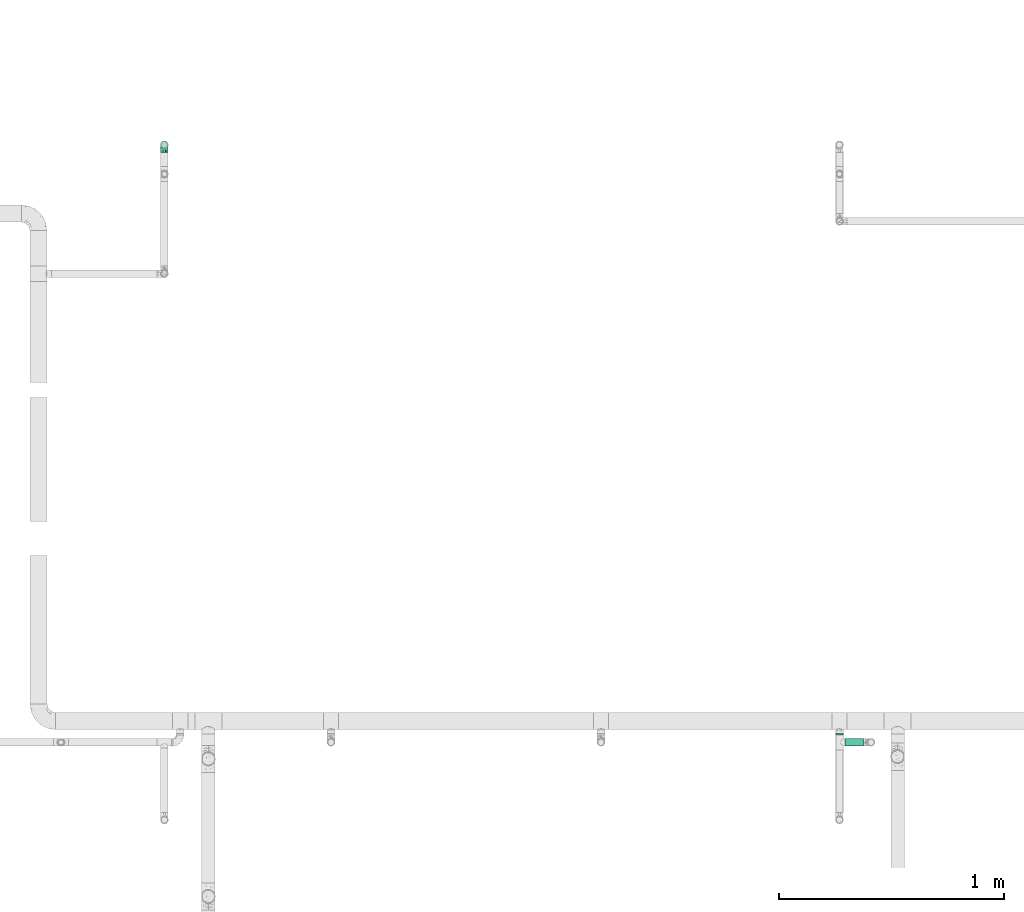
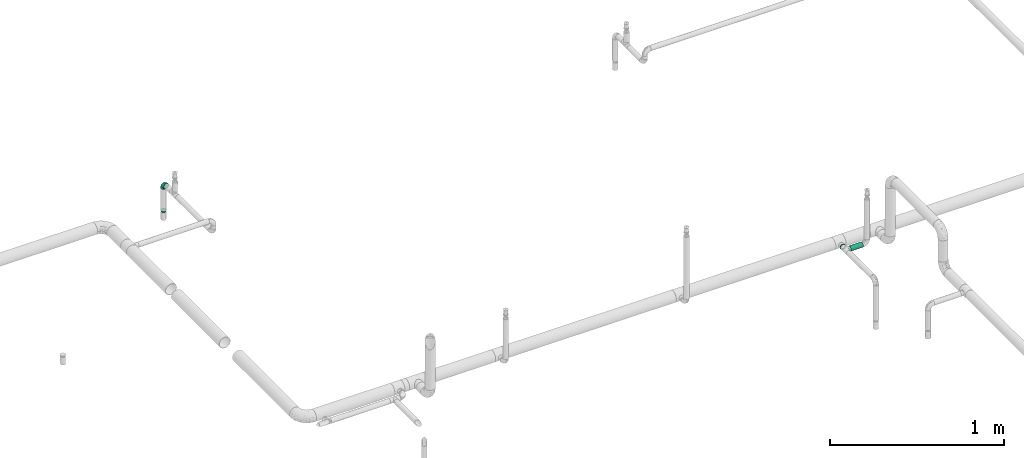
# One storey, part 114 of 157: 2 flow fittings, 2 flow segments.
"""IFC2X3 building model written with IfcOpenShell, lengths in millimetres."""

import ifcopenshell
import ifcopenshell.guid

model = None  # the IFC model being written
_history = None  # IfcOwnerHistory: only IFC2X3 demands one
_inside = {}  # id of a spatial element -> (the spatial element, [elements in it])
_under = {}  # id of a project, library or spatial element -> (it, [spatial elements below it])
_declared = {}  # id of a project -> (the project, [libraries it declares])
_typed = {}  # id of a type object -> (the type object, [elements of that type])
_made_of = {}  # id of a material, layer set ... -> (it, [elements and type objects made of it])


def new_model(schema):
    """Start an empty IFC model of exactly this schema.

    Asked for "IFC4X3", IfcOpenShell would pick the latest addendum, in which some entities
    have other attributes; the version numbers below select the first issue.
    IFC2X3 requires an IfcOwnerHistory on every rooted entity: one is made here for all.
    """
    global model, _history
    if schema == "IFC4X3":
        model = ifcopenshell.file(schema_version=(4, 3, 0, 0))
    else:
        model = ifcopenshell.file(schema=schema)
    _inside.clear()
    _under.clear()
    _declared.clear()
    _typed.clear()
    _made_of.clear()
    _history = None
    if model.schema == "IFC2X3":
        org = make("IfcOrganization", Name="unknown")
        user = make(
            "IfcPersonAndOrganization",
            ThePerson=make("IfcPerson", FamilyName="unknown"),
            TheOrganization=org,
        )
        app = make(
            "IfcApplication",
            ApplicationDeveloper=org,
            Version="unknown",
            ApplicationFullName="unknown",
            ApplicationIdentifier="unknown",
        )
        _history = make(
            "IfcOwnerHistory",
            OwningUser=user,
            OwningApplication=app,
            ChangeAction="ADDED",
            CreationDate=0,
        )
    return model


def make(cls, **values):
    """One entity of the class cls with the attributes given. An attribute that is None is left unset."""
    return model.create_entity(
        cls, **{name: value for name, value in values.items() if value is not None}
    )


def entity(cls, *values):
    """Any entity or typed value of the class cls, its attributes in the order of the schema. None: left unset."""
    e = model.create_entity(cls)
    for i, value in enumerate(values):
        if value is not None:
            e[i] = value
    return e


def rooted(cls, **values):
    """An entity with a GlobalId (a new one), such as an element, a storey or a relation."""
    return make(cls, GlobalId=ifcopenshell.guid.new(), OwnerHistory=_history, **values)


def si_unit(unit_type, name, prefix=None):
    """IfcSIUnit, for example si_unit("LENGTHUNIT", "METRE", prefix="MILLI")."""
    return make("IfcSIUnit", UnitType=unit_type, Prefix=prefix, Name=name)


def converted_unit(unit_type, name, factor, base, dimensions=None, offset=None):
    """IfcConversionBasedUnit, such as the inch: factor (a typed value) times the base unit."""
    return make(
        "IfcConversionBasedUnit"
        if offset is None
        else "IfcConversionBasedUnitWithOffset",
        ConversionOffset=offset,
        Dimensions=None
        if dimensions is None
        else entity("IfcDimensionalExponents", *dimensions),
        UnitType=unit_type,
        Name=name,
        ConversionFactor=make(
            "IfcMeasureWithUnit", ValueComponent=factor, UnitComponent=base
        ),
    )


def derived_unit(unit_type, elements):
    """IfcDerivedUnit: a product of units, each with its exponent."""
    return make(
        "IfcDerivedUnit",
        Elements=[
            make("IfcDerivedUnitElement", Unit=unit, Exponent=power)
            for unit, power in elements
        ],
        UnitType=unit_type,
    )


def assignment(units):
    """IfcUnitAssignment: the units of a project."""
    return None if units is None else make("IfcUnitAssignment", Units=units)


def point(xyz):
    """IfcCartesianPoint."""
    return None if xyz is None else make("IfcCartesianPoint", Coordinates=xyz)


def direction(xyz):
    """IfcDirection."""
    return None if xyz is None else make("IfcDirection", DirectionRatios=xyz)


def frame(location, z_axis=None, x_axis=None):
    """IfcAxis2Placement3D, a coordinate frame: its origin and axes. An axis left out is left unset."""
    return make(
        "IfcAxis2Placement3D",
        Location=point(location),
        Axis=direction(z_axis),
        RefDirection=direction(x_axis),
    )


def frame_2d(location, x_axis=None):
    """IfcAxis2Placement2D, a coordinate frame in the plane: its origin and x axis."""
    return make(
        "IfcAxis2Placement2D", Location=point(location), RefDirection=direction(x_axis)
    )


def origin_with_axes():
    """The frame at (0, 0, 0) with the z axis (0, 0, 1) and the x axis (1, 0, 0) written out."""
    return frame((0.0, 0.0, 0.0), z_axis=(0.0, 0.0, 1.0), x_axis=(1.0, 0.0, 0.0))


def origin_2d_with_axis():
    """The frame at (0, 0) in the plane with the x axis (1, 0) written out."""
    return frame_2d((0.0, 0.0), x_axis=(1.0, 0.0))


def place(relative_to, where):
    """IfcLocalPlacement: puts the frame where relative to a parent placement (None: the world)."""
    return make(
        "IfcLocalPlacement", PlacementRelTo=relative_to, RelativePlacement=where
    )


def context(
    kind, dimensions, precision=None, world=None, true_north=None, identifier=None
):
    """IfcGeometricRepresentationContext, for example the 3D "Model" context."""
    return make(
        "IfcGeometricRepresentationContext",
        ContextIdentifier=identifier,
        ContextType=kind,
        CoordinateSpaceDimension=dimensions,
        Precision=precision,
        WorldCoordinateSystem=world,
        TrueNorth=true_north,
    )


def subcontext(parent, identifier, kind, view, scale=None):
    """IfcGeometricRepresentationSubContext, for example "Body" below "Model"."""
    return make(
        "IfcGeometricRepresentationSubContext",
        ContextIdentifier=identifier,
        ContextType=kind,
        ParentContext=parent,
        TargetScale=scale,
        TargetView=view,
    )


def project(units=None, contexts=None):
    """IfcProject with its units and contexts."""
    return rooted(
        "IfcProject",
        Name="project",
        RepresentationContexts=contexts,
        UnitsInContext=assignment(units),
    )


def spatial(cls, under=None, at=None, **own):
    """A site, building, storey or space (cls), placed at a placement, below another one or the project."""
    s = rooted(cls, ObjectPlacement=at, **own)
    if under is not None:
        _under.setdefault(under.id(), (under, []))[1].append(s)
    return s


def profile(cls, at=None, kind="AREA", **sizes):
    """A parametric profile (cls). Its sizes go by their IFC names, for example OverallWidth=200.0."""
    return make(cls, ProfileType=kind, Position=at, **sizes)


def hollow_circle(**sizes):
    """IfcCircleHollowProfileDef."""
    return profile("IfcCircleHollowProfileDef", **sizes)


def extrude(swept, where, along, depth):
    """IfcExtrudedAreaSolid: the profile swept, set in the frame where, extruded along a direction by depth."""
    return make(
        "IfcExtrudedAreaSolid",
        SweptArea=swept,
        Position=where,
        ExtrudedDirection=direction(along),
        Depth=depth,
    )


def faces_of(points, faces, orient=None, outer=None):
    """IfcFace entities. A face is a list of loops; a loop is a list of indices into points, from 0.

    orient and outer hold one flag for each loop. By default every Orientation is true, the
    first loop of a face is its IfcFaceOuterBound and the others are IfcFaceBound.
    """
    made = []
    for i, loops in enumerate(faces):
        bounds = []
        for j, loop in enumerate(loops):
            is_outer = j == 0 if outer is None else outer[i][j]
            bounds.append(
                make(
                    "IfcFaceOuterBound" if is_outer else "IfcFaceBound",
                    Bound=make("IfcPolyLoop", Polygon=[points[k] for k in loop]),
                    Orientation=True if orient is None else orient[i][j],
                )
            )
        made.append(make("IfcFace", Bounds=bounds))
    return made


def open_shell(faces, orient=None, outer=None):
    """The faces of one IfcOpenShell. surface_model builds it on its shared points."""
    return ("IfcOpenShell", faces, orient, outer)


def surface_model(cls, points, shells):
    """IfcFaceBasedSurfaceModel or IfcShellBasedSurfaceModel (cls): surfaces that need not close."""
    shared = [point(p) for p in points]
    made = [make(c, CfsFaces=faces_of(shared, fs, o, b)) for c, fs, o, b in shells]
    if cls == "IfcFaceBasedSurfaceModel":
        return make(cls, FbsmFaces=made)
    return make(cls, SbsmBoundary=made)


def shape(context_of_items, identifier, shape_type, items):
    """IfcShapeRepresentation: the items that make up one representation, for example the "Body"."""
    return make(
        "IfcShapeRepresentation",
        ContextOfItems=context_of_items,
        RepresentationIdentifier=identifier,
        RepresentationType=shape_type,
        Items=items,
    )


def source(mapping_origin, context_of_items, identifier, shape_type, items):
    """IfcRepresentationMap: a shape defined once, which mapped items show again and again."""
    return make(
        "IfcRepresentationMap",
        MappingOrigin=mapping_origin,
        MappedRepresentation=shape(context_of_items, identifier, shape_type, items),
    )


def transform(
    local_origin,
    x_axis=None,
    y_axis=None,
    z_axis=None,
    scale=None,
    scale2=None,
    scale3=None,
    uniform=True,
):
    """IfcCartesianTransformationOperator3D, or its non-uniform kind. x_axis, y_axis, z_axis: its Axis1, 2, 3."""
    if uniform:
        return make(
            "IfcCartesianTransformationOperator3D",
            Axis1=direction(x_axis),
            Axis2=direction(y_axis),
            LocalOrigin=point(local_origin),
            Scale=scale,
            Axis3=direction(z_axis),
        )
    return make(
        "IfcCartesianTransformationOperator3DnonUniform",
        Axis1=direction(x_axis),
        Axis2=direction(y_axis),
        LocalOrigin=point(local_origin),
        Scale=scale,
        Axis3=direction(z_axis),
        Scale2=scale2,
        Scale3=scale3,
    )


def mapped(mapping_source, mapping_target):
    """IfcMappedItem: shows the shape of a source again, moved by a transform."""
    return make(
        "IfcMappedItem", MappingSource=mapping_source, MappingTarget=mapping_target
    )


def made_of(thing, what):
    """Note that an element or type object is made of a material, layer set ...; save() writes the relation."""
    if what is not None:
        _made_of.setdefault(what.id(), (what, []))[1].append(thing)
    return thing


def type_object(cls, material=None, **own):
    """A type object (cls), such as IfcWallType, which elements share."""
    return made_of(rooted(cls, **own), material)


def element(
    cls,
    number,
    at=None,
    inside=None,
    cuts=None,
    type_object=None,
    material=None,
    context=None,
    identifier="Body",
    shape_type=None,
    held_by="IfcProductDefinitionShape",
    body=None,
    shapes=None,
    **own,
):
    """One element of the class cls, such as IfcWall. Its Tag is "e" and its number.

    at: its placement. inside: the storey or other place that contains it. cuts: it is an
    opening in that element (IfcRelVoidsElement). A single representation is given by context,
    identifier, shape_type and body (its items); several are given by shapes. held_by: the class
    of the entity that holds the representations. save() writes the other relations.
    """
    e = rooted(cls, Tag="e%d" % number, ObjectPlacement=at, **own)
    if body is not None:
        shapes = [shape(context, identifier, shape_type, body)]
    if shapes is not None:
        e.Representation = make(held_by, Representations=shapes)
    if inside is not None:
        _inside.setdefault(inside.id(), (inside, []))[1].append(e)
    if cuts is not None:
        rooted(
            "IfcRelVoidsElement", RelatingBuildingElement=cuts, RelatedOpeningElement=e
        )
    if type_object is not None:
        _typed.setdefault(type_object.id(), (type_object, []))[1].append(e)
    return made_of(e, material)


def aggregate(whole, parts):
    """IfcRelAggregates: a whole, such as a stair, and the parts it consists of."""
    return rooted("IfcRelAggregates", RelatingObject=whole, RelatedObjects=parts)


def save(model, path):
    """Write the relations noted so far, then the file.

    IfcRelAggregates (storeys below a building ...), IfcRelContainedInSpatialStructure (elements
    in a storey), IfcRelDefinesByType, IfcRelAssociatesMaterial and IfcRelDeclares: one each for
    every whole, place, type object, material and project.
    """
    for whole, parts in _under.values():
        aggregate(whole, parts)
    for where, things in _inside.values():
        rooted(
            "IfcRelContainedInSpatialStructure",
            RelatedElements=things,
            RelatingStructure=where,
        )
    for kind, things in _typed.values():
        rooted("IfcRelDefinesByType", RelatedObjects=things, RelatingType=kind)
    for what, things in _made_of.values():
        rooted("IfcRelAssociatesMaterial", RelatedObjects=things, RelatingMaterial=what)
    for by, libraries in _declared.values():
        rooted("IfcRelDeclares", RelatingContext=by, RelatedDefinitions=libraries)
    model.write(path)


model = new_model("IFC2X3")

# Units and contexts
model_context = context("Model", 3, precision=0.01, world=frame((0.0, 4.29681676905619e-09, 0.0)), true_north=direction((4.01073788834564e-13, 1.0)))
plan_context = context("Plan", 3, precision=0.01, world=frame((0.0, 4.29681676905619e-09, 0.0)), true_north=direction((4.01073788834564e-13, 1.0)))
body_context = subcontext(model_context, "Body", "Model", "MODEL_VIEW")
ifc_project = project(units=[converted_unit("PLANEANGLEUNIT", "DEGREE", entity("IfcPositiveLengthMeasure", 0.0174532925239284), si_unit("PLANEANGLEUNIT", "RADIAN"), dimensions=[0, 0, 0, 0, 0, 0, 0]), si_unit("AREAUNIT", "SQUARE_METRE"), si_unit("LENGTHUNIT", "METRE", prefix="MILLI"), si_unit("MASSUNIT", "GRAM", prefix="KILO"), si_unit("POWERUNIT", "WATT"), si_unit("PRESSUREUNIT", "PASCAL"), si_unit("FORCEUNIT", "NEWTON", prefix="KILO"), si_unit("ELECTRICCURRENTUNIT", "AMPERE"), si_unit("THERMODYNAMICTEMPERATUREUNIT", "DEGREE_CELSIUS"), si_unit("TIMEUNIT", "SECOND"), si_unit("VOLUMEUNIT", "CUBIC_METRE"), derived_unit("LINEARVELOCITYUNIT", [(si_unit("LENGTHUNIT", "METRE"), 1), (si_unit("TIMEUNIT", "SECOND"), -1)]), derived_unit("VOLUMETRICFLOWRATEUNIT", [(si_unit("VOLUMEUNIT", "CUBIC_METRE"), 1), (si_unit("TIMEUNIT", "SECOND"), -1)]), derived_unit("THERMALTRANSMITTANCEUNIT", [(si_unit("POWERUNIT", "WATT"), 1), (si_unit("THERMODYNAMICTEMPERATUREUNIT", "KELVIN"), -1), (si_unit("AREAUNIT", "SQUARE_METRE"), -1)])], contexts=[model_context, plan_context])

# Site, building, storey
site_placement = place(None, frame((0.0, -4.29681676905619e-09, 0.0), z_axis=(0.0, 0.0, 1.0), x_axis=(1.0, 0.0, 0.0)))
site = spatial("IfcSite", under=ifc_project, at=site_placement, CompositionType="ELEMENT")
building_placement = place(site_placement, frame((0.0, 4.29681676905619e-09, 0.0), z_axis=(0.0, 0.0, 1.0), x_axis=(1.0, 0.0, 0.0)))
building = spatial("IfcBuilding", under=site, at=building_placement, Name="mc-building", CompositionType="ELEMENT")
storey_placement = place(building_placement, frame((0.0, 0.0, 204000.0), z_axis=(0.0, 0.0, 1.0), x_axis=(1.0, 0.0, 0.0)))
storey = spatial("IfcBuildingStorey", under=building, at=storey_placement, Name="Nivå D", CompositionType="ELEMENT", Elevation=204000.0)

# Flow fittings
pipe_fitting_type_1 = type_object("IfcPipeFittingType", Name="magi_pipe_fe_elbow_short_001", PredefinedType="BEND")
shared_shape_1 = source(origin_with_axes(), body_context, "Body", "SurfaceModel", [
    surface_model("IfcShellBasedSurfaceModel", [(-33.8, 8.45, -14.63583), (-33.8, 4.37404, -16.32415), (-33.8, 11.9501, -11.9501), (-33.8, -11.9501, -11.9501), (-33.8, -14.63583, -8.45), (-33.8, -8.45, -14.63583), (-33.8, 0.0, -16.9), (-33.8, -4.37404, -16.32415), (-33.8, -4.37404, 16.32415), (-33.8, 0.0, 16.9), (-33.8, -8.45, 14.63583), (-33.8, 16.32415, -4.37404), (-33.8, 14.63583, -8.45), (-33.8, -16.32415, -4.37404), (-33.8, -16.9, 0.0), (-33.8, -16.32415, 4.37404), (-33.8, 11.9501, 11.9501), (-33.8, 14.63583, 8.45), (-33.8, 16.32415, 4.37404), (-33.8, 4.37404, 16.32415), (-33.8, 8.45, 14.63583), (-33.8, -14.63583, 8.45), (-33.8, -11.9501, 11.9501), (-33.8, 16.9, 0.0), (-11.9501, 33.8, -11.9501), (0.0, 33.8, -16.9), (-4.37404, 33.8, -16.32415), (-8.45, 33.8, -14.63583), (-14.63583, 33.8, -8.45), (-16.32415, 33.8, -4.37404), (14.63583, 33.8, -8.45), (8.45, 33.8, 14.63583), (16.32415, 33.8, -4.37404), (8.45, 33.8, -14.63583), (11.9501, 33.8, -11.9501), (4.37404, 33.8, -16.32415), (16.32415, 33.8, 4.37404), (16.9, 33.8, 0.0), (-11.9501, 33.8, 11.9501), (-16.32415, 33.8, 4.37404), (-14.63583, 33.8, 8.45), (-8.45, 33.8, 14.63583), (-4.37404, 33.8, 16.32415), (11.9501, 33.8, 11.9501), (14.63583, 33.8, 8.45), (0.0, 33.8, 16.9), (4.37404, 33.8, 16.32415), (-16.9, 33.8, 0.0), (-24.79389, -13.12945, 9.48721), (-22.19287, -9.75018, 12.59315), (-24.09897, -14.97035, 0.0), (-14.93934, -10.76256, 8.5297), (-22.46095, -14.75051, 5.27077), (14.75051, 22.46094, 5.27077), (11.9251, 13.23888, 4.33236), (13.04069, 14.39795, 0.0), (7.71387, 13.68847, 11.55891), (9.75018, 22.19287, 12.59315), (4.10169, 13.0571, 14.04018), (-24.84007, -6.39063, 15.2048), (-25.81779, -2.23879, 16.61097), (-23.66549, 2.59054, 16.87119), (-26.50418, 14.06512, 11.08152), (-24.21253, 17.66365, 7.72657), (-29.58514, 15.86957, 7.00283), (-6.17382, -7.5455, 0.0), (-13.23888, -11.9251, 4.33236), (-14.39795, -13.04069, 0.0), (-17.81434, 18.87373, 11.97104), (-6.30846, 29.15138, 15.82987), (-2.31622, 25.28002, 16.85849), (-29.23923, 10.23435, 13.77053), (-1.45439, -2.85688, 7.61475), (-0.28326, 0.34872, 10.09509), (-5.74484, -4.04709, 10.4122), (-4.41137, 11.31918, 16.59407), (-8.39727, 3.10034, 15.7812), (-1.72649, 9.1306, 15.53089), (-17.39909, 24.75344, 7.64977), (-26.19233, 20.0512, 0.0), (-28.14518, 17.29657, 4.25857), (-26.05147, 6.6281, 15.96447), (-5.87354, 16.61944, 16.86968), (-12.51807, 12.51807, 16.48937), (-10.06312, 7.38516, 16.81295), (-3.01882, 3.01882, 13.81718), (-13.0571, -4.10169, 14.04018), (-16.82553, -0.15166, 16.38038), (10.76256, 14.93934, 8.5297), (13.12945, 24.79389, 9.48721), (6.39063, 24.84007, 15.2048), (2.23879, 25.81779, 16.61097), (-13.68847, -7.71387, 11.55891), (14.97035, 24.09897, 0.0), (-7.30894, 22.89991, 16.09489), (-10.67958, 26.17414, 14.008), (-12.78295, 18.26924, 15.06066), (-13.88562, 22.45231, 12.93244), (-18.04944, 15.16501, 14.04434), (-23.11658, 20.08178, 4.02986), (-21.84989, 21.84989, 0.0), (-18.55817, 25.48277, 3.93065), (-13.95142, 26.94732, 11.03289), (-18.57098, 7.23906, 16.59756), (-16.58335, 4.14122, 16.89279), (-17.96666, 11.46709, 15.63151), (-9.84453, 17.54304, 16.18938), (0.15166, 16.82553, 16.38038), (-23.27207, 11.47201, 14.23154), (3.84842, 5.86994, 10.70473), (-8.0212, -7.54413, 7.93275), (1.00345, -2.19508, 4.57414), (5.13203, 3.01004, 5.90201), (5.24161, 1.7543, 2.53265), (8.70457, 7.04947, 3.99182), (-20.0512, 26.19233, 0.0), (8.4852, 8.76699, 7.09296), (-4.55488, -6.72064, 4.90681), (2.05031, -2.05031, 0.0), (7.5455, 6.17382, 0.0), (-26.75399, 2.1369, -16.845), (-14.61995, 24.73803, -11.27736), (-28.45274, -13.45335, -9.81895), (-26.00469, 6.63555, -15.96645), (-23.06726, 20.04573, -4.26202), (-13.80647, -4.26506, -14.17873), (-14.67501, -0.21081, -16.07388), (-6.7902, -0.2828, -13.8478), (-24.53586, 11.08096, -14.13417), (-26.72048, 14.00837, -11.05776), (10.0967, 24.44989, -12.75976), (5.83237, 21.40218, -15.03047), (6.66249, 28.54238, -15.38093), (-20.38182, 15.48705, -12.74596), (12.53268, 21.23441, -9.15363), (12.54494, 15.67504, -5.54878), (9.7522, 12.89279, -8.66343), (-15.65186, 19.64213, -13.01327), (-12.03528, 20.66498, -14.67665), (-15.61907, 15.61906, -14.83879), (-25.56551, -15.26206, 0.0), (-24.65452, -15.12934, -5.50955), (13.45335, 28.45274, -9.81895), (15.12934, 24.65452, -5.50955), (-7.35442, -8.31014, -5.65563), (-15.67504, -12.54494, -5.54878), (-24.44989, -10.0967, -12.75976), (0.16522, 0.41303, -9.71728), (-5.70658, -5.33066, -8.89288), (-5.13869, -2.37198, -11.53565), (-21.23441, -12.53268, -9.15363), (0.71146, 7.93863, -14.09382), (0.21081, 14.67501, -16.07388), (3.49291, 14.42772, -14.76381), (-24.89911, -2.13088, -16.591), (-28.54238, -6.66249, -15.38093), (-18.44386, -7.71663, -13.26957), (2.13088, 24.89911, -16.591), (-28.64342, 17.44413, -2.89318), (1.70017, -1.28722, -5.09504), (-16.57067, 26.81947, -7.36596), (-17.69055, 27.4263, -3.76405), (-12.89279, -9.7522, -8.66343), (-5.96611, 5.96611, -15.95814), (-20.53709, 20.09345, -8.28985), (-2.1369, 26.75399, -16.845), (-6.89872, 24.58781, -16.02578), (-10.60739, 26.53157, -13.98044), (-21.40218, -5.83237, -15.03047), (2.93192, 5.89627, -11.55917), (6.89393, 12.61842, -11.82233), (5.58056, 5.95325, -8.79455), (-3.99512, 18.61798, -16.89635), (8.31014, 7.35442, -5.65563), (-9.1383, 9.86148, -16.89041), (-9.99983, 16.02119, -16.39699), (-16.68576, 9.78031, -16.34199), (-27.01915, 16.61158, -7.12979), (15.26206, 25.56551, 0.0), (-18.61798, 3.99512, -16.89635), (-19.37495, 27.82495, 0.0), (-12.61842, -6.89393, -11.82233), (-18.84705, 19.14018, -10.96545)], [open_shell([[[0, 1, 2]], [[3, 4, 5]], [[6, 7, 5]], [[8, 9, 10]], [[1, 6, 2]], [[11, 12, 2]], [[4, 2, 6]], [[2, 13, 10]], [[5, 4, 6]], [[2, 4, 13]], [[14, 15, 13]], [[11, 2, 16]], [[11, 17, 18]], [[11, 16, 17]], [[19, 20, 16]], [[16, 2, 10]], [[19, 16, 10]], [[21, 22, 15]], [[22, 13, 15]], [[22, 10, 13]], [[10, 9, 19]], [[11, 18, 23]], [[24, 25, 26]], [[24, 26, 27]], [[24, 28, 29]], [[25, 24, 30]], [[31, 32, 24]], [[33, 30, 34]], [[33, 35, 25]], [[25, 30, 33]], [[32, 30, 24]], [[32, 36, 37]], [[38, 24, 29]], [[39, 40, 29]], [[40, 38, 29]], [[38, 41, 42]], [[38, 31, 24]], [[31, 38, 42]], [[36, 43, 44]], [[36, 32, 43]], [[31, 45, 46]], [[32, 31, 43]], [[42, 45, 31]], [[39, 29, 47]], [[22, 48, 49]], [[15, 14, 50]], [[51, 48, 52]], [[53, 54, 55]], [[48, 22, 21]], [[15, 52, 21]], [[56, 57, 58]], [[49, 10, 22]], [[49, 59, 10]], [[9, 60, 61]], [[62, 63, 64]], [[65, 66, 67]], [[57, 43, 31]], [[62, 68, 63]], [[42, 69, 70]], [[20, 71, 16]], [[8, 60, 9]], [[72, 73, 74]], [[75, 76, 77]], [[16, 62, 17]], [[40, 39, 78]], [[79, 23, 80]], [[64, 18, 17]], [[9, 61, 19]], [[19, 81, 20]], [[82, 83, 84]], [[74, 85, 86]], [[59, 86, 87]], [[88, 89, 57]], [[90, 31, 46]], [[44, 53, 36]], [[46, 45, 91]], [[54, 53, 88]], [[44, 89, 53]], [[92, 86, 49]], [[89, 44, 43]], [[10, 59, 8]], [[53, 55, 93]], [[93, 36, 53]], [[66, 52, 67]], [[94, 82, 70]], [[95, 96, 94]], [[97, 98, 96]], [[79, 99, 100]], [[41, 38, 95]], [[101, 100, 99]], [[68, 78, 63]], [[42, 41, 69]], [[23, 18, 80]], [[95, 94, 69]], [[78, 101, 99]], [[38, 102, 95]], [[70, 45, 42]], [[97, 95, 102]], [[15, 50, 52]], [[90, 57, 31]], [[57, 90, 58]], [[81, 19, 61]], [[103, 104, 84]], [[105, 81, 103]], [[38, 40, 102]], [[106, 96, 83]], [[94, 106, 82]], [[91, 70, 107]], [[71, 62, 16]], [[62, 108, 98]], [[86, 59, 49]], [[67, 52, 50]], [[60, 59, 87]], [[92, 49, 51]], [[86, 85, 76]], [[91, 90, 46]], [[37, 36, 93]], [[107, 77, 58]], [[107, 58, 90]], [[58, 85, 109]], [[110, 74, 92]], [[72, 74, 110]], [[66, 51, 52]], [[72, 111, 112]], [[113, 114, 112]], [[56, 88, 57]], [[52, 48, 21]], [[49, 48, 51]], [[57, 89, 43]], [[53, 89, 88]], [[103, 81, 61]], [[71, 81, 108]], [[18, 64, 80]], [[63, 78, 99]], [[47, 115, 101]], [[101, 115, 100]], [[40, 78, 102]], [[68, 102, 78]], [[97, 96, 95]], [[105, 98, 108]], [[103, 84, 83]], [[107, 70, 82]], [[76, 84, 87]], [[82, 84, 75]], [[70, 91, 45]], [[90, 91, 107]], [[59, 60, 8]], [[61, 60, 87]], [[73, 85, 74]], [[109, 112, 116]], [[103, 61, 104]], [[105, 103, 83]], [[96, 105, 83]], [[81, 105, 108]], [[96, 98, 105]], [[62, 98, 68]], [[61, 87, 104]], [[87, 84, 104]], [[86, 76, 87]], [[77, 76, 85]], [[58, 77, 85]], [[75, 77, 107]], [[82, 75, 107]], [[76, 75, 84]], [[81, 71, 20]], [[62, 71, 108]], [[95, 69, 41]], [[70, 69, 94]], [[62, 64, 17]], [[80, 63, 99]], [[63, 80, 64]], [[80, 99, 79]], [[66, 65, 117]], [[110, 66, 117]], [[112, 114, 116]], [[118, 117, 65]], [[110, 92, 51]], [[112, 111, 113]], [[119, 55, 54]], [[74, 86, 92]], [[58, 109, 56]], [[116, 56, 109]], [[66, 110, 51]], [[72, 110, 117]], [[111, 72, 117]], [[73, 112, 109]], [[117, 118, 111]], [[113, 111, 118]], [[118, 119, 113]], [[114, 119, 54]], [[119, 114, 113]], [[116, 54, 88]], [[54, 116, 114]], [[116, 88, 56]], [[112, 73, 72]], [[85, 73, 109]], [[78, 39, 101]], [[47, 101, 39]], [[102, 68, 97]], [[97, 68, 98]], [[82, 106, 83]], [[94, 96, 106]], [[1, 120, 6]], [[28, 24, 121]], [[3, 122, 4]], [[0, 123, 1]], [[100, 124, 79]], [[125, 126, 127]], [[128, 2, 129]], [[130, 131, 132]], [[128, 129, 133]], [[134, 135, 136]], [[137, 138, 139]], [[128, 0, 2]], [[67, 140, 141]], [[134, 142, 143]], [[141, 13, 4]], [[144, 65, 145]], [[146, 3, 5]], [[147, 148, 149]], [[145, 141, 150]], [[151, 152, 153]], [[154, 7, 6]], [[5, 155, 146]], [[150, 146, 156]], [[155, 5, 7]], [[143, 135, 134]], [[35, 157, 25]], [[23, 79, 158]], [[148, 159, 144]], [[160, 161, 29]], [[145, 162, 144]], [[163, 152, 151]], [[29, 28, 160]], [[121, 164, 160]], [[33, 34, 130]], [[25, 165, 26]], [[26, 165, 166]], [[142, 34, 30]], [[24, 27, 167]], [[124, 161, 164]], [[157, 35, 132]], [[155, 154, 168]], [[123, 0, 128]], [[169, 170, 171]], [[172, 157, 152]], [[26, 166, 27]], [[132, 35, 33]], [[142, 130, 34]], [[168, 154, 126]], [[136, 135, 173]], [[133, 137, 139]], [[2, 12, 129]], [[170, 131, 130]], [[30, 32, 143]], [[172, 174, 175]], [[176, 123, 128]], [[158, 177, 11]], [[135, 55, 119]], [[167, 27, 166]], [[175, 166, 172]], [[137, 167, 138]], [[122, 141, 4]], [[140, 14, 13]], [[32, 37, 178]], [[170, 130, 134]], [[152, 157, 131]], [[165, 157, 172]], [[153, 170, 151]], [[152, 163, 174]], [[168, 125, 156]], [[122, 146, 150]], [[120, 154, 6]], [[179, 174, 126]], [[179, 126, 154]], [[126, 163, 127]], [[162, 145, 150]], [[140, 13, 141]], [[32, 178, 143]], [[55, 143, 178]], [[177, 129, 12]], [[128, 133, 139]], [[176, 128, 139]], [[120, 123, 179]], [[121, 160, 28]], [[161, 100, 180]], [[166, 175, 138]], [[121, 24, 167]], [[161, 47, 29]], [[79, 124, 158]], [[124, 164, 177]], [[161, 124, 100]], [[136, 171, 170]], [[127, 163, 151]], [[147, 171, 159]], [[148, 144, 162]], [[127, 151, 169]], [[127, 181, 125]], [[129, 177, 164]], [[12, 11, 177]], [[159, 65, 144]], [[67, 141, 145]], [[143, 55, 135]], [[135, 119, 173]], [[123, 120, 1]], [[154, 120, 179]], [[157, 165, 25]], [[166, 165, 172]], [[172, 152, 174]], [[176, 139, 175]], [[126, 174, 163]], [[176, 174, 179]], [[174, 176, 175]], [[123, 176, 179]], [[150, 181, 162]], [[127, 149, 181]], [[181, 148, 162]], [[159, 148, 147]], [[171, 136, 173]], [[170, 134, 136]], [[159, 171, 173]], [[171, 147, 169]], [[169, 147, 149]], [[151, 170, 169]], [[164, 182, 129]], [[182, 121, 137]], [[181, 149, 148]], [[169, 149, 127]], [[182, 137, 133]], [[167, 137, 121]], [[166, 138, 167]], [[175, 139, 138]], [[129, 182, 133]], [[121, 182, 164]], [[161, 160, 164]], [[47, 161, 180]], [[177, 158, 124]], [[23, 158, 11]], [[130, 132, 33]], [[157, 132, 131]], [[143, 142, 30]], [[130, 142, 134]], [[154, 155, 7]], [[146, 155, 168]], [[146, 122, 3]], [[141, 122, 150]], [[152, 131, 153]], [[159, 119, 118]], [[67, 145, 65]], [[170, 153, 131]], [[119, 159, 173]], [[159, 118, 65]], [[156, 125, 181]], [[126, 125, 168]], [[150, 156, 181]], [[168, 156, 146]]])]),
])
flow_fitting_1_placement = place(storey_placement, frame((524499.91685, 416600.0, 2600.0), z_axis=(0.999999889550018, 0.0, 0.000469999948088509), x_axis=(-0.000469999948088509, 0.0, 0.999999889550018)))
element("IfcFlowFitting", 1, at=flow_fitting_1_placement, inside=storey, type_object=pipe_fitting_type_1, Name="magi_pipe_fe_elbow_short_001", context=body_context, shape_type="MappedRepresentation", body=[
    mapped(shared_shape_1, transform((0.0, 0.0, 0.0), scale=1.0)),
])
pipe_fitting_type_2 = type_object("IfcPipeFittingType", Name="magi_pipe_fe_reducer_centric_short_NOR", PredefinedType="TRANSITION")
shared_shape_2 = source(origin_with_axes(), body_context, "Body", "SurfaceModel", [
    surface_model("IfcShellBasedSurfaceModel", [(-2.0, -7.56604, -7.56604), (-2.0, -10.33541, -2.76936), (-2.0, -5.35, -9.26647), (-2.0, 5.35, -9.26647), (-2.0, 10.33541, -2.76936), (-2.0, 7.56604, -7.56604), (12.4, 11.9501, 11.9501), (12.4, 0.0, 16.9), (12.4, 11.9501, -11.9501), (12.4, 16.9, 0.0), (0.0, -10.7, 0.0), (0.0, -5.35, 9.26647), (0.0, -5.35, -9.26647), (0.0, 10.7, 0.0), (12.4, 15.66253, -2.98753), (12.4, 8.96258, -13.18758), (0.0, 6.6875, -6.94985), (12.4, -15.66253, -2.98753), (12.4, -16.9, 0.0), (12.4, 5.97505, -14.42505), (0.0, 5.35, -9.26647), (12.4, 14.42505, -5.97505), (0.0, 8.025, -4.63324), (0.0, 9.3625, -2.31662), (0.0, -9.3625, -2.31662), (0.0, -8.025, -4.63324), (12.4, -14.42505, -5.97505), (12.4, 13.18758, -8.96258), (12.4, -13.18758, -8.96258), (12.4, -11.9501, -11.9501), (0.0, -6.6875, -6.94985), (12.4, -8.96258, -13.18758), (12.4, -5.97505, -14.42505), (12.4, -15.66253, 2.98753), (12.4, -8.96258, 13.18758), (0.0, -6.6875, 6.94985), (12.4, -11.9501, 11.9501), (12.4, 15.66253, 2.98753), (12.4, -5.97505, 14.42505), (12.4, -14.42505, 5.97505), (0.0, -8.025, 4.63324), (0.0, -9.3625, 2.31662), (0.0, 9.3625, 2.31662), (0.0, 8.025, 4.63324), (12.4, 14.42505, 5.97505), (12.4, -13.18758, 8.96258), (12.4, 13.18758, 8.96258), (0.0, 6.6875, 6.94985), (12.4, 8.96258, 13.18758), (0.0, 5.35, 9.26647), (12.4, 5.97505, 14.42505), (14.4, 4.37404, -16.32415), (14.4, 8.45, -14.63583), (14.4, 11.9501, -11.9501), (14.4, -8.45, -14.63583), (14.4, 16.32415, -4.37404), (14.4, 16.32415, 4.37404), (14.4, 14.63583, -8.45), (14.4, 0.0, -16.9), (14.4, -4.37404, -16.32415), (14.4, -11.9501, -11.9501), (14.4, -16.32415, -4.37404), (14.4, -14.63583, -8.45), (14.4, -16.32415, 4.37404), (14.4, 16.9, 0.0), (14.4, 14.63583, 8.45), (14.4, 11.9501, 11.9501), (14.4, 4.37404, 16.32415), (14.4, 8.45, 14.63583), (14.4, 0.0, 16.9), (14.4, -14.63583, 8.45), (14.4, -16.9, 0.0), (14.4, -8.45, 14.63583), (14.4, -11.9501, 11.9501), (14.4, -4.37404, 16.32415), (12.4, 4.37404, 16.32415), (12.4, -14.63583, 8.45), (12.4, 16.32415, 4.37404), (12.4, 8.45, 14.63583), (12.4, 14.63583, 8.45), (12.4, -8.45, 14.63583), (12.4, -4.37404, 16.32415), (12.4, -16.32415, 4.37404), (12.4, -16.32415, -4.37404), (12.4, -8.45, -14.63583), (12.4, 16.32415, -4.37404), (12.4, 14.63583, -8.45), (12.4, 8.45, -14.63583), (12.4, 4.37404, -16.32415), (12.4, 0.0, -16.9), (12.4, -14.63583, -8.45), (12.4, -4.37404, -16.32415), (-2.0, 2.76936, 10.33541), (-2.0, 0.0, 10.7), (-2.0, 5.35, 9.26647), (-2.0, 7.56604, 7.56604), (-2.0, 9.26647, 5.35), (-2.0, 10.33541, 2.76936), (-2.0, -10.33541, 2.76936), (-2.0, -2.76936, 10.33541), (-2.0, -7.56604, 7.56604), (-2.0, -5.35, 9.26647), (-2.0, -9.26647, 5.35), (-2.0, -10.7, 0.0), (-2.0, 9.26647, -5.35), (-2.0, 2.76936, -10.33541), (-2.0, -9.26647, -5.35), (-2.0, 0.0, -10.7), (-2.0, -2.76936, -10.33541), (-2.0, 10.7, 0.0), (0.0, 0.0, -10.7), (0.0, 2.76936, -10.33541), (0.0, 10.33541, -2.76936), (0.0, 7.56604, -7.56604), (0.0, -10.33541, -2.76936), (0.0, 9.26647, -5.35), (0.0, 0.0, 10.7), (0.0, -2.76936, -10.33541), (0.0, -7.56604, -7.56604), (0.0, -9.26647, -5.35), (0.0, 10.33541, 2.76936), (0.0, 9.26647, 5.35), (0.0, 7.56604, 7.56604), (0.0, 2.76936, 10.33541), (0.0, -7.56604, 7.56604), (0.0, -10.33541, 2.76936), (0.0, -9.26647, 5.35), (0.0, -2.76936, 10.33541), (0.0, 2.675, -9.26647), (0.0, -2.675, -9.26647), (12.4, 2.98753, -15.66253), (0.0, 0.0, -9.26647), (12.4, -2.98753, -15.66253), (0.0, -2.675, 9.26647), (0.0, 2.675, 9.26647), (12.4, -2.98753, 15.66253), (0.0, 0.0, 9.26647), (12.4, 2.98753, 15.66253)], [open_shell([[[0, 1, 2]], [[3, 4, 5]], [[6, 7, 8]], [[8, 9, 6]], [[10, 11, 12]], [[13, 9, 14]], [[15, 16, 8]], [[17, 18, 10]], [[15, 19, 20]], [[21, 22, 23]], [[24, 25, 26]], [[22, 21, 27]], [[28, 26, 25]], [[29, 30, 31]], [[12, 32, 31]], [[10, 18, 33]], [[34, 35, 36]], [[37, 9, 13]], [[34, 38, 11]], [[39, 40, 41]], [[42, 43, 44]], [[40, 39, 45]], [[46, 44, 43]], [[6, 47, 48]], [[49, 50, 48]], [[51, 52, 53]], [[54, 51, 53]], [[53, 55, 56]], [[55, 53, 57]], [[53, 56, 54]], [[58, 54, 59]], [[58, 51, 54]], [[60, 61, 62]], [[61, 60, 54]], [[54, 63, 61]], [[56, 55, 64]], [[56, 65, 66]], [[56, 66, 67]], [[67, 63, 54]], [[67, 66, 68]], [[63, 67, 69]], [[69, 70, 63]], [[71, 61, 63]], [[70, 72, 73]], [[70, 69, 72]], [[72, 69, 74]], [[54, 56, 67]], [[75, 76, 7]], [[77, 75, 78]], [[6, 79, 77]], [[6, 77, 78]], [[76, 75, 77]], [[80, 76, 36]], [[80, 81, 7]], [[7, 76, 80]], [[82, 76, 77]], [[82, 83, 18]], [[82, 77, 84]], [[77, 85, 8]], [[8, 85, 86]], [[8, 87, 88]], [[84, 77, 8]], [[88, 89, 8]], [[83, 29, 90]], [[29, 83, 84]], [[84, 89, 91]], [[83, 82, 84]], [[8, 89, 84]], [[85, 77, 9]], [[83, 61, 18]], [[90, 62, 83]], [[54, 29, 84]], [[90, 29, 60]], [[59, 84, 91]], [[83, 62, 61]], [[61, 71, 18]], [[59, 54, 84]], [[60, 29, 54]], [[60, 62, 90]], [[58, 59, 91]], [[91, 89, 58]], [[88, 51, 89]], [[87, 52, 88]], [[57, 8, 86]], [[87, 8, 53]], [[55, 86, 85]], [[87, 53, 52]], [[52, 51, 88]], [[64, 55, 85]], [[57, 86, 55]], [[57, 53, 8]], [[9, 64, 85]], [[89, 51, 58]], [[77, 56, 9]], [[79, 65, 77]], [[68, 6, 78]], [[79, 6, 66]], [[67, 78, 75]], [[77, 65, 56]], [[56, 64, 9]], [[67, 68, 78]], [[66, 6, 68]], [[66, 65, 79]], [[69, 67, 75]], [[75, 7, 69]], [[81, 74, 7]], [[80, 72, 81]], [[70, 36, 76]], [[80, 36, 73]], [[63, 76, 82]], [[80, 73, 72]], [[72, 74, 81]], [[71, 63, 82]], [[70, 76, 63]], [[70, 73, 36]], [[18, 71, 82]], [[7, 74, 69]], [[92, 1, 93]], [[94, 1, 92]], [[95, 96, 97]], [[95, 97, 94]], [[98, 93, 1]], [[99, 100, 101]], [[99, 93, 100]], [[100, 98, 102]], [[93, 98, 100]], [[98, 1, 103]], [[94, 97, 1]], [[1, 97, 4]], [[5, 4, 104]], [[4, 3, 1]], [[105, 1, 3]], [[1, 0, 106]], [[2, 107, 108]], [[2, 1, 105]], [[105, 107, 2]], [[4, 97, 109]], [[20, 110, 111]], [[112, 20, 113]], [[114, 20, 112]], [[112, 113, 115]], [[116, 114, 112]], [[110, 12, 117]], [[110, 20, 12]], [[118, 114, 119]], [[114, 118, 12]], [[20, 114, 12]], [[112, 13, 120]], [[120, 121, 122]], [[120, 122, 123]], [[116, 112, 123]], [[123, 122, 49]], [[116, 124, 114]], [[125, 124, 126]], [[10, 114, 125]], [[124, 127, 11]], [[125, 114, 124]], [[127, 124, 116]], [[123, 112, 120]], [[1, 114, 103]], [[106, 119, 1]], [[12, 0, 2]], [[106, 0, 118]], [[117, 2, 108]], [[1, 119, 114]], [[114, 10, 103]], [[117, 12, 2]], [[118, 0, 12]], [[118, 119, 106]], [[110, 117, 108]], [[108, 107, 110]], [[105, 111, 107]], [[3, 20, 105]], [[115, 5, 104]], [[3, 5, 113]], [[112, 104, 4]], [[3, 113, 20]], [[20, 111, 105]], [[13, 112, 4]], [[115, 104, 112]], [[115, 113, 5]], [[109, 13, 4]], [[107, 111, 110]], [[97, 120, 109]], [[96, 121, 97]], [[49, 95, 94]], [[96, 95, 122]], [[123, 94, 92]], [[97, 121, 120]], [[120, 13, 109]], [[123, 49, 94]], [[122, 95, 49]], [[122, 121, 96]], [[116, 123, 92]], [[92, 93, 116]], [[99, 127, 93]], [[101, 11, 99]], [[126, 100, 102]], [[101, 100, 124]], [[125, 102, 98]], [[101, 124, 11]], [[11, 127, 99]], [[10, 125, 98]], [[126, 102, 125]], [[126, 124, 100]], [[103, 10, 98]], [[93, 127, 116]], [[18, 7, 36]], [[18, 29, 8]], [[89, 8, 29]], [[18, 8, 7]], [[13, 11, 49]], [[13, 20, 12]], [[13, 12, 11]], [[24, 26, 17]], [[10, 24, 17]], [[16, 15, 20]], [[30, 12, 31]], [[23, 14, 21]], [[19, 128, 20]], [[27, 8, 16]], [[32, 12, 129]], [[30, 28, 25]], [[130, 131, 128]], [[129, 132, 32]], [[16, 22, 27]], [[13, 14, 23]], [[128, 19, 130]], [[130, 89, 131]], [[131, 132, 129]], [[89, 132, 131]], [[28, 30, 29]], [[42, 44, 37]], [[13, 42, 37]], [[35, 34, 11]], [[47, 49, 48]], [[41, 33, 39]], [[38, 133, 11]], [[45, 36, 35]], [[50, 49, 134]], [[47, 46, 43]], [[135, 136, 133]], [[134, 137, 50]], [[35, 40, 45]], [[10, 33, 41]], [[133, 38, 135]], [[135, 7, 136]], [[136, 137, 134]], [[7, 137, 136]], [[46, 47, 6]]])]),
])
flow_fitting_2_placement = place(storey_placement, frame((524499.93275, 416600.0, 2396.95199999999), z_axis=(0.0, 1.0, 0.0), x_axis=(0.0, 0.0, 1.0)))
element("IfcFlowFitting", 2, at=flow_fitting_2_placement, inside=storey, type_object=pipe_fitting_type_2, Name="magi_pipe_fe_reducer_centric_short_NOR", context=body_context, shape_type="MappedRepresentation", body=[
    mapped(shared_shape_2, transform((0.0, 0.0, 0.0), scale=1.0)),
])

# Flow segments
pipe_segment_type = type_object("IfcPipeSegmentType", Name="Stålrør normaltykke", PredefinedType="RIGIDSEGMENT")
shared_shape_3 = source(origin_with_axes(), body_context, "Body", "SweptSolid", [
    extrude(hollow_circle(Radius=16.9, WallThickness=2.0, at=origin_2d_with_axis()), frame((0.0, 0.0, 0.0), z_axis=(1.0, 0.0, 0.0), x_axis=(0.0, 1.0, 0.0)), (0.0, 0.0, 1.0), 80.8),
])
flow_segment_1_placement = place(storey_placement, frame((527606.55, 413944.73504, 2690.0), z_axis=(0.0, 0.0, 1.0), x_axis=(-1.0, 0.0, 0.0)))
element("IfcFlowSegment", 3, at=flow_segment_1_placement, inside=storey, type_object=pipe_segment_type, Name="Stålrør normaltykke", context=body_context, shape_type="MappedRepresentation", body=[
    mapped(shared_shape_3, transform((0.0, 0.0, 0.0), scale=1.0)),
])
shared_shape_4 = source(origin_with_axes(), body_context, "Body", "SweptSolid", [
    extrude(hollow_circle(Radius=16.9, WallThickness=2.0, at=origin_2d_with_axis()), frame((0.0, 0.0, 0.0), z_axis=(1.0, 0.0, 0.0), x_axis=(0.0, 1.0, 0.0)), (0.0, 0.0, 1.0), 3.7),
])
flow_segment_2_placement = place(storey_placement, frame((527499.97645, 413982.20389, 2690.0), z_axis=(0.0, 0.0, 1.0), x_axis=(6.89999998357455e-05, -0.9999999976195, 0.0)))
element("IfcFlowSegment", 4, at=flow_segment_2_placement, inside=storey, type_object=pipe_segment_type, Name="Stålrør normaltykke", context=body_context, shape_type="MappedRepresentation", body=[
    mapped(shared_shape_4, transform((0.0, 0.0, 0.0), scale=1.0)),
])

save(model, "model.ifc")
